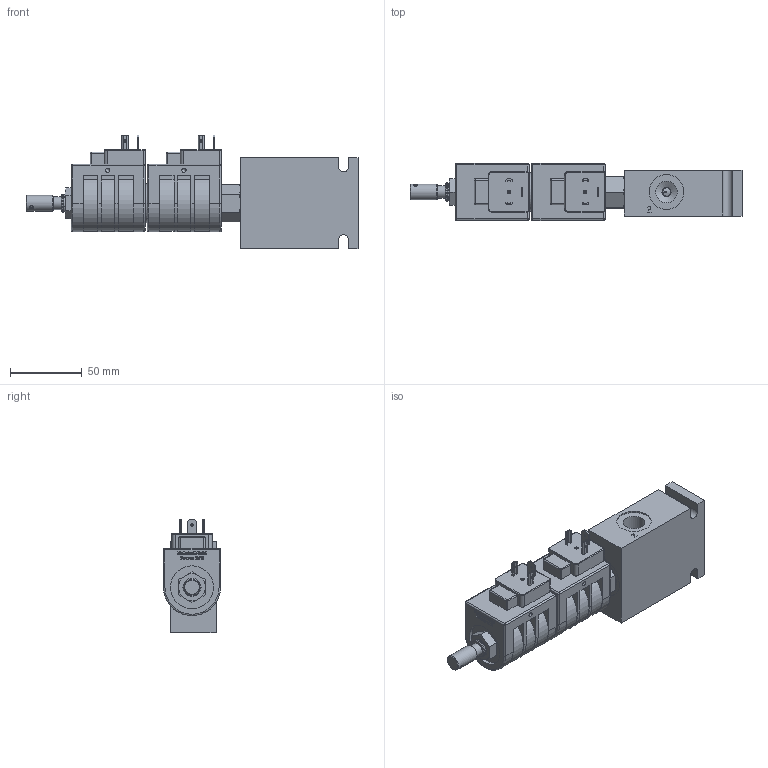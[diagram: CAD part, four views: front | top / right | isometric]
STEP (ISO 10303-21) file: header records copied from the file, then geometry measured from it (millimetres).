
FILE_DESCRIPTION( ( 'Unknown' ), '1' );
FILE_NAME( 'G:/Graphic Design/Graphic Design 2/Data Sheets/SOLENOID OPERATED VALVES/4_STEP/4W2P Spool/PQ-S4M0M-B4.stp', 'Unknown', ( 'Unknown' ), ( 'Unknown' ), 'PSStep 15.0.49', 'Unknown', ' ' );
FILE_SCHEMA( ( 'AUTOMOTIVE_DESIGN { 1 0 10303 214 1 1 1 1 }' ) );
Length unit declared in the file: millimetre
Products named in the file (26): pqs4m0p; PQS4M0P1; PQS4M0P2; PQS4M0P3; PQS4M0P4; PQS4M0P5; PQS4M0P6; PQS4M0P7; PQS4M0P8; PQS4M0P9; PQS4M0P10; PQS4M0P11; PQS4M0P12; PQS4M0P13; PQS4M0P14; D-DHC12; DHC-Body; DHC-Disc; DHC-Disc-oa0; PT-EL-HC-TerminalConnectors; Assem1; Delta_1_2_nut1 - Copy; B-DPQB4
Assembly tree (26 placements, depth 3):
  Assem1
    Delta_1_2_nut1 - Copy
    B-DPQB4
    pqs4m0p
      PQS4M0P1
      PQS4M0P2
      PQS4M0P3
      PQS4M0P4
      PQS4M0P5
      PQS4M0P6
      PQS4M0P7
      PQS4M0P8
      PQS4M0P9
      PQS4M0P10
      PQS4M0P11
      PQS4M0P12
      PQS4M0P13
      PQS4M0P14
    D-DHC12  x2
      DHC-Body
      DHC-Disc
      DHC-Disc-oa0
      PT-EL-HC-TerminalConnectors
      PT-EL-HC-TerminalConnectors
      PT-EL-HC-TerminalConnectors
      PT-EL-HC-TerminalConnectors
Bounding box: 230.87 x 39.6 x 79.15 mm (x, y, z)
Volume: 333364.6 mm3; surface area: 82526.4 mm2
Topology: 30 solids, 30 shells, 1286 faces, 3162 edges, 2030 vertices
Faces by surface type: plane 622, cylinder 248, extrusion 236, cone 149, torus 19, sphere 12
Full cylindrical faces by diameter (mm): 0.2 x4, 1 x2, 1.321 x24, 1.5 x6, 2.337 x16, 2.5 x2, 3 x4, 6.3 x3, 6.35 x1, 7.948 x1, 8.744 x1, 9.881 x1, 9.931 x2, 10.922 x1, 10.998 x1, 11 x1, 11.182 x1, 11.455 x1, 11.506 x2, 12.255 x1, 12.256 x2, 12.573 x1, 12.624 x4, 12.675 x1, 12.7 x4, 12.751 x1, 13 x2, 13.056 x1, 13.081 x1, 13.106 x2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
Entity records: 34080 total; most frequent: CARTESIAN_POINT 8537, ORIENTED_EDGE 3540, DIRECTION 3297, EDGE_CURVE 1770, VERTEX_POINT 1278, EDGE_LOOP 1253, AXIS2_PLACEMENT_3D 1169, FACE_OUTER_BOUND 988
